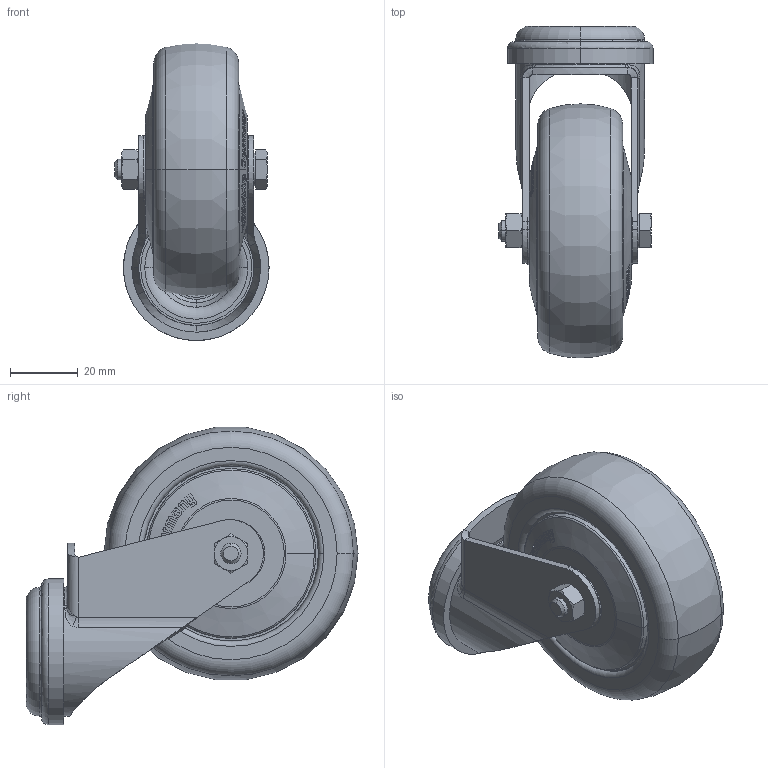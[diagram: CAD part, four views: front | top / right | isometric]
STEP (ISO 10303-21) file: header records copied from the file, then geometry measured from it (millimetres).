
FILE_DESCRIPTION (( 'STEP AP214' ), '1' );
FILE_NAME ('LRXA-TPA_75KD-FK_755005-214.step', '2012-12-15T09:42:33', ( '' ), ( '' ), 'SwSTEP 2.0', 'SolidWorks 2011', '' );
FILE_SCHEMA (( 'AUTOMOTIVE_DESIGN' ));
Length unit declared in the file: millimetre
Products named in the file (5): LRXA-TPA_75KD-FK_755005-214; GH-LRXA_075_G15; AM_LPA_06x34_D8; TPA-K-FK_G15_TPA_75_6KD-FK; TPA_G15_TPA_75_6KD-FK_613307
Assembly tree (4 placements, depth 3):
  LRXA-TPA_75KD-FK_755005-214
    TPA_G15_TPA_75_6KD-FK_613307
      TPA-K-FK_G15_TPA_75_6KD-FK
    AM_LPA_06x34_D8
    GH-LRXA_075_G15
Bounding box: 45.5 x 98 x 87.73 mm (x, y, z)
Volume: 132343.4 mm3; surface area: 29762.9 mm2
Topology: 3 solids, 3 shells, 918 faces, 2383 edges, 1557 vertices
Faces by surface type: plane 500, bspline 242, cone 89, cylinder 45, torus 42
Entity records: 49846 total; most frequent: CARTESIAN_POINT 19844, ORIENTED_EDGE 4766, DIRECTION 2866, EDGE_CURVE 2383, VERTEX_POINT 1557, B_SPLINE_CURVE_WITH_KNOTS 1088, VECTOR 1060, LINE 1060
